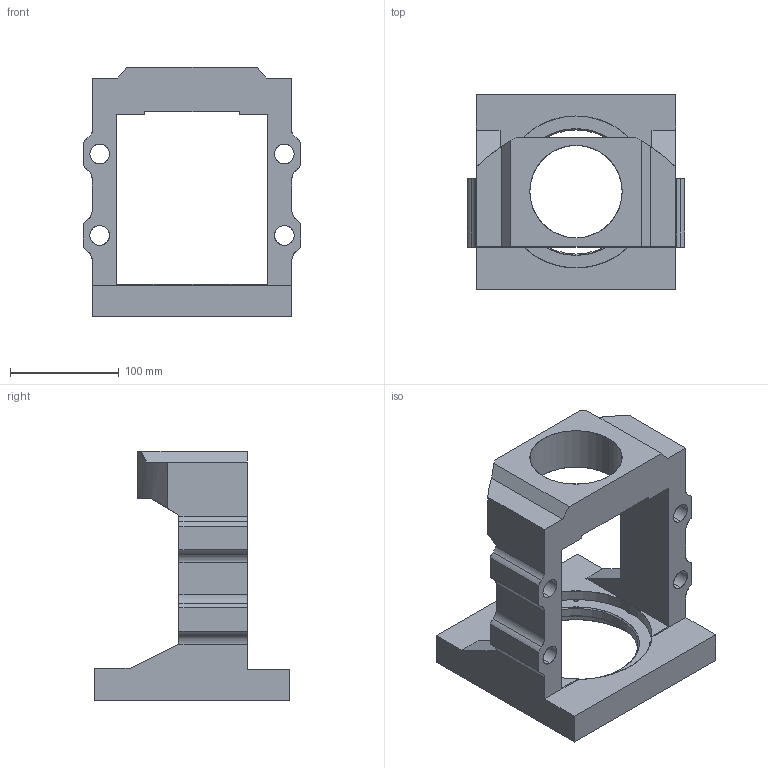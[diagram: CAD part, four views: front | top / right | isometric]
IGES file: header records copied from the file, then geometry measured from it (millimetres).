
Start section: SolidWorks IGES file using analytic representation for surfaces
Global section: file name: C:\Users\117\Desktop\1101001MBB30-H-I-J網路圖處理\2D3D\3D\MBB30-I.IGS; native system: SolidWorks 2018; preprocessor: SolidWorks 2018; author: 117; date: 211001.141018; units: millimetre
Bounding box: 200 x 180 x 230 mm (x, y, z)
Surface area: 219364.1 mm2 (no closed solid volume)
Topology: 0 solids, 0 shells, 198 faces, 3026 edges, 3022 vertices
Faces by surface type: revolution 126, bspline 72
